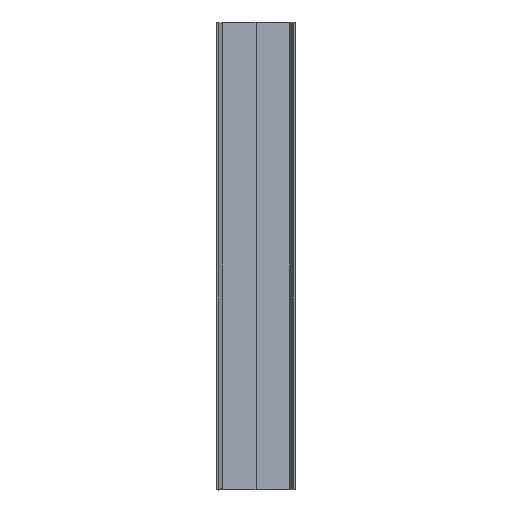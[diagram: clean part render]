
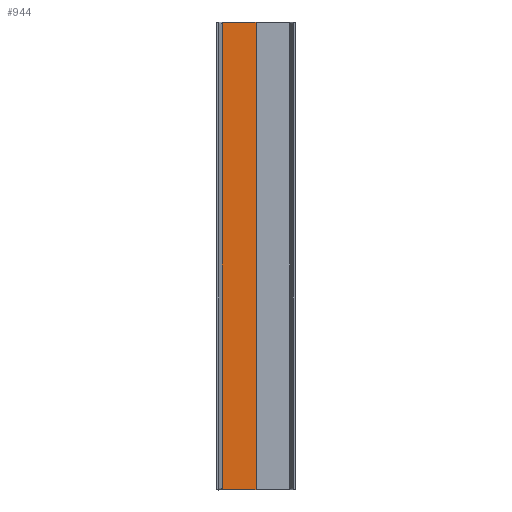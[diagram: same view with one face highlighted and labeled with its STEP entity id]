
A CAD part, top view. The second image highlights one B-rep face of the part: STEP entity #944.
In plain terms, the highlighted planar face has unit normal (0, 0, 1).
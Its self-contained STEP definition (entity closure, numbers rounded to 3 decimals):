
#78=PLANE('',#1060);
#128=FACE_OUTER_BOUND('',#180,.T.);
#180=EDGE_LOOP('',(#847,#848,#849,#850,#851,#852));
#189=LINE('',#1374,#275);
#193=LINE('',#1396,#279);
#209=LINE('',#1442,#295);
#268=LINE('',#1631,#354);
#275=VECTOR('',#1081,10.);
#279=VECTOR('',#1103,10.);
#295=VECTOR('',#1141,10.);
#354=VECTOR('',#1346,10.);
#358=ELLIPSE('',#965,1.077,1.);
#368=ELLIPSE('',#990,1.077,1.);
#371=VERTEX_POINT('',#1362);
#372=VERTEX_POINT('',#1364);
#375=VERTEX_POINT('',#1372);
#384=VERTEX_POINT('',#1395);
#402=VERTEX_POINT('',#1439);
#403=VERTEX_POINT('',#1441);
#463=EDGE_CURVE('',#371,#372,#358,.F.);
#468=EDGE_CURVE('',#375,#371,#189,.T.);
#478=EDGE_CURVE('',#372,#384,#193,.T.);
#501=EDGE_CURVE('',#402,#403,#209,.T.);
#511=EDGE_CURVE('',#403,#375,#368,.F.);
#596=EDGE_CURVE('',#402,#384,#268,.T.);
#847=ORIENTED_EDGE('',*,*,#501,.F.);
#848=ORIENTED_EDGE('',*,*,#596,.T.);
#849=ORIENTED_EDGE('',*,*,#478,.F.);
#850=ORIENTED_EDGE('',*,*,#463,.F.);
#851=ORIENTED_EDGE('',*,*,#468,.F.);
#852=ORIENTED_EDGE('',*,*,#511,.F.);
#944=ADVANCED_FACE('',(#128),#78,.T.);
#965=AXIS2_PLACEMENT_3D('',#1365,#1072,#1073);
#990=AXIS2_PLACEMENT_3D('',#1460,#1154,#1155);
#1060=AXIS2_PLACEMENT_3D('',#1630,#1344,#1345);
#1072=DIRECTION('center_axis',(0.,0.,-1.));
#1073=DIRECTION('ref_axis',(1.,0.,0.));
#1081=DIRECTION('',(0.,1.,0.));
#1103=DIRECTION('',(1.,0.,0.));
#1141=DIRECTION('',(-1.,0.,0.));
#1154=DIRECTION('center_axis',(0.,0.,-1.));
#1155=DIRECTION('ref_axis',(1.,0.,0.));
#1344=DIRECTION('center_axis',(0.,0.,1.));
#1345=DIRECTION('ref_axis',(1.,0.,0.));
#1346=DIRECTION('',(0.,1.,0.));
#1362=CARTESIAN_POINT('',(-18.,249.,0.));
#1364=CARTESIAN_POINT('',(-19.077,250.,0.));
#1365=CARTESIAN_POINT('Origin',(-19.077,249.,0.));
#1372=CARTESIAN_POINT('',(-18.,1.,0.));
#1374=CARTESIAN_POINT('',(-18.,0.,0.));
#1395=CARTESIAN_POINT('',(0.,250.,0.));
#1396=CARTESIAN_POINT('',(0.,250.,0.));
#1439=CARTESIAN_POINT('',(0.,0.,0.));
#1441=CARTESIAN_POINT('',(-19.077,0.,0.));
#1442=CARTESIAN_POINT('',(0.,0.,0.));
#1460=CARTESIAN_POINT('Origin',(-19.077,1.,0.));
#1630=CARTESIAN_POINT('Origin',(-18.,0.,0.));
#1631=CARTESIAN_POINT('',(0.,0.,0.));
